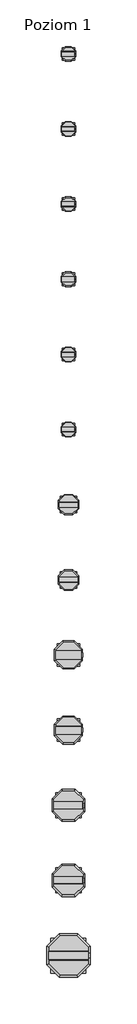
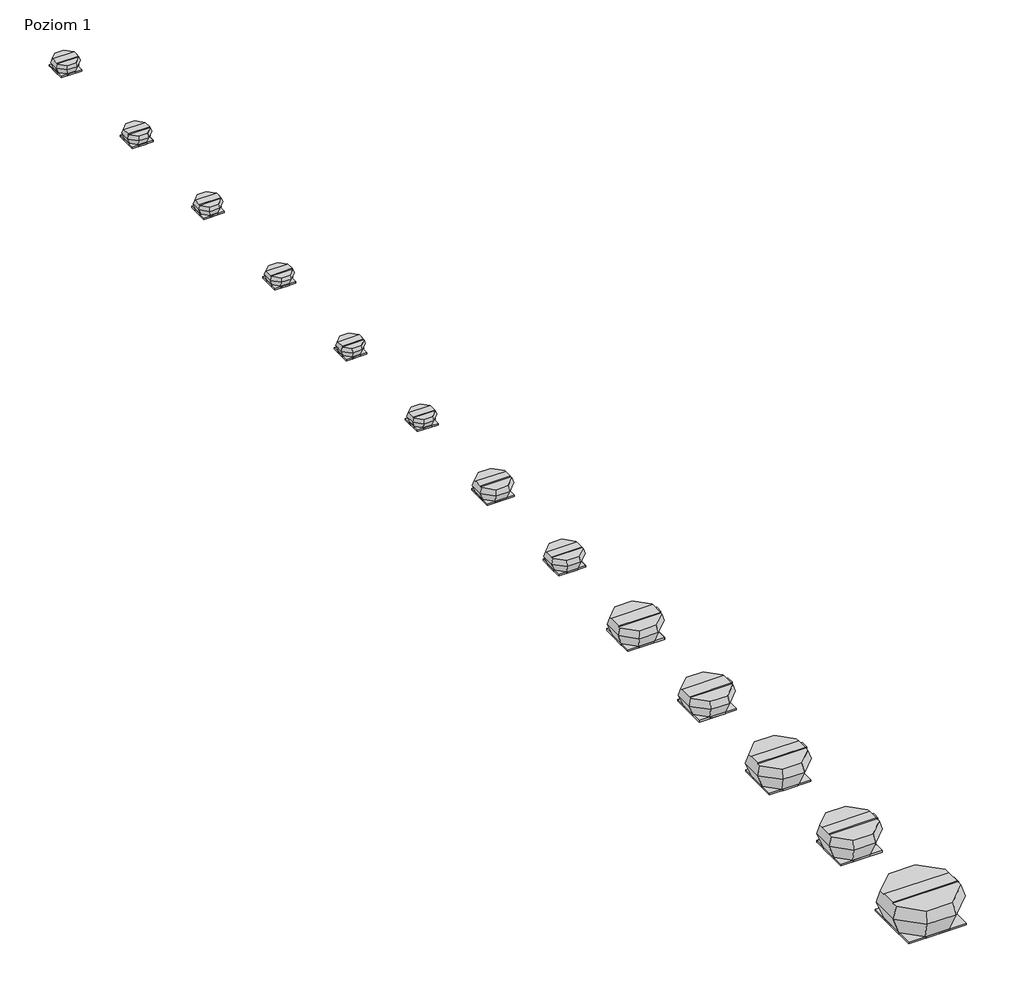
# One storey: 13 duct fittings, 13 unitary equipment elements.
"""IFC4 building model written with IfcOpenShell, lengths in millimetres."""

from ifc_helpers import new_model, si_unit, origin, place, context, project, spatial, transform, mapped, element, save
from components import duct_fitting_180_5dd8c60e, duct_fitting_250_9d40ecca, duct_fitting_400_42e1e227, duct_fitting_560_c8fad201, unitary_equipment_a59a2d30, unitary_equipment_fd4ee621, unitary_equipment_81159ae2, unitary_equipment_c2e2b98b, unitary_equipment_f8658a9e, unitary_equipment_a3701f98, unitary_equipment_b495a2a0, unitary_equipment_f77e3ca6, unitary_equipment_25c7162d, unitary_equipment_8482c4d3, unitary_equipment_7d859a49, unitary_equipment_75d93c66, unitary_equipment_7c28f33a

model = new_model("IFC4")

# Units and contexts
model_context = context("Model", 3, world=origin())
ifc_project = project(units=[si_unit("LENGTHUNIT", "METRE", prefix="MILLI")], contexts=[model_context])

# Site, building, storey
site = spatial("IfcSite", under=ifc_project)
building = spatial("IfcBuilding", under=site)
storey = spatial("IfcBuildingStorey", under=building, Name="Poziom 1", Elevation=0.0)

# Duct fittings
placement = place(None, origin())
duct_fitting_180_shape = duct_fitting_180_5dd8c60e(model_context)
element("IfcDuctFitting", 1, ObjectType="VE-Zagnieżdżone-Akcesorium-ParaForma-Harmann-DAF-Króciec_Przyłączeniowy : 180", at=placement, inside=storey, context=model_context, shape_type="MappedRepresentation", body=[
    mapped(duct_fitting_180_shape, transform((4582.5, 5000.0, 0.0), x_axis=(1.0, 0.0, 0.0), y_axis=(0.0, 1.0, 0.0), z_axis=(0.0, 0.0, 1.0))),
])
element("IfcDuctFitting", 2, ObjectType="VE-Zagnieżdżone-Akcesorium-ParaForma-Harmann-DAF-Króciec_Przyłączeniowy : 180", at=placement, inside=storey, context=model_context, shape_type="MappedRepresentation", body=[
    mapped(duct_fitting_180_shape, transform((4582.5, 7000.0, 0.0), x_axis=(1.0, 0.0, 0.0), y_axis=(0.0, 1.0, 0.0), z_axis=(0.0, 0.0, 1.0))),
])
element("IfcDuctFitting", 3, ObjectType="VE-Zagnieżdżone-Akcesorium-ParaForma-Harmann-DAF-Króciec_Przyłączeniowy : 180", at=placement, inside=storey, context=model_context, shape_type="MappedRepresentation", body=[
    mapped(duct_fitting_180_shape, transform((4582.5, 1000.0, 0.0), x_axis=(1.0, 0.0, 0.0), y_axis=(0.0, 1.0, 0.0), z_axis=(0.0, 0.0, 1.0))),
])
element("IfcDuctFitting", 4, ObjectType="VE-Zagnieżdżone-Akcesorium-ParaForma-Harmann-DAF-Króciec_Przyłączeniowy : 180", at=placement, inside=storey, context=model_context, shape_type="MappedRepresentation", body=[
    mapped(duct_fitting_180_shape, transform((4582.5, 3000.0, 0.0), x_axis=(1.0, 0.0, 0.0), y_axis=(0.0, 1.0, 0.0), z_axis=(0.0, 0.0, 1.0))),
])
element("IfcDuctFitting", 5, ObjectType="VE-Zagnieżdżone-Akcesorium-ParaForma-Harmann-DAF-Króciec_Przyłączeniowy : 180", at=placement, inside=storey, context=model_context, shape_type="MappedRepresentation", body=[
    mapped(duct_fitting_180_shape, transform((4582.5, 9000.0, 0.0), x_axis=(1.0, 0.0, 0.0), y_axis=(0.0, 1.0, 0.0), z_axis=(0.0, 0.0, 1.0))),
])
element("IfcDuctFitting", 6, ObjectType="VE-Zagnieżdżone-Akcesorium-ParaForma-Harmann-DAF-Króciec_Przyłączeniowy : 180", at=placement, inside=storey, context=model_context, shape_type="MappedRepresentation", body=[
    mapped(duct_fitting_180_shape, transform((4582.5, 11000.0, 0.0), x_axis=(1.0, 0.0, 0.0), y_axis=(0.0, 1.0, 0.0), z_axis=(0.0, 0.0, 1.0))),
])
duct_fitting_250_shape = duct_fitting_250_9d40ecca(model_context)
element("IfcDuctFitting", 7, ObjectType="VE-Zagnieżdżone-Akcesorium-ParaForma-Harmann-DAF-Króciec_Przyłączeniowy : 250", at=placement, inside=storey, context=model_context, shape_type="MappedRepresentation", body=[
    mapped(duct_fitting_250_shape, transform((4582.5, -3000.0, 0.0), x_axis=(1.0, 0.0, 0.0), y_axis=(0.0, 1.0, 0.0), z_axis=(0.0, 0.0, 1.0))),
])
element("IfcDuctFitting", 8, ObjectType="VE-Zagnieżdżone-Akcesorium-ParaForma-Harmann-DAF-Króciec_Przyłączeniowy : 250", at=placement, inside=storey, context=model_context, shape_type="MappedRepresentation", body=[
    mapped(duct_fitting_250_shape, transform((4582.5, -1000.0, 0.0), x_axis=(1.0, 0.0, 0.0), y_axis=(0.0, 1.0, 0.0), z_axis=(0.0, 0.0, 1.0))),
])
duct_fitting_400_shape = duct_fitting_400_42e1e227(model_context)
element("IfcDuctFitting", 9, ObjectType="VE-Zagnieżdżone-Akcesorium-ParaForma-Harmann-DAF-Króciec_Przyłączeniowy : 400", at=placement, inside=storey, context=model_context, shape_type="MappedRepresentation", body=[
    mapped(duct_fitting_400_shape, transform((4582.5, -7000.0, 0.0), x_axis=(1.0, 0.0, 0.0), y_axis=(0.0, 1.0, 0.0), z_axis=(0.0, 0.0, 1.0))),
])
element("IfcDuctFitting", 10, ObjectType="VE-Zagnieżdżone-Akcesorium-ParaForma-Harmann-DAF-Króciec_Przyłączeniowy : 400", at=placement, inside=storey, context=model_context, shape_type="MappedRepresentation", body=[
    mapped(duct_fitting_400_shape, transform((4582.5, -5000.0, 0.0), x_axis=(1.0, 0.0, 0.0), y_axis=(0.0, 1.0, 0.0), z_axis=(0.0, 0.0, 1.0))),
])
element("IfcDuctFitting", 11, ObjectType="VE-Zagnieżdżone-Akcesorium-ParaForma-Harmann-DAF-Króciec_Przyłączeniowy : 400", at=placement, inside=storey, context=model_context, shape_type="MappedRepresentation", body=[
    mapped(duct_fitting_400_shape, transform((4582.5, -9000.0, 0.0), x_axis=(1.0, 0.0, 0.0), y_axis=(0.0, 1.0, 0.0), z_axis=(0.0, 0.0, 1.0))),
])
element("IfcDuctFitting", 12, ObjectType="VE-Zagnieżdżone-Akcesorium-ParaForma-Harmann-DAF-Króciec_Przyłączeniowy : 400", at=placement, inside=storey, context=model_context, shape_type="MappedRepresentation", body=[
    mapped(duct_fitting_400_shape, transform((4582.5, -11000.0, 0.0), x_axis=(1.0, 0.0, 0.0), y_axis=(0.0, 1.0, 0.0), z_axis=(0.0, 0.0, 1.0))),
])
duct_fitting_560_shape = duct_fitting_560_c8fad201(model_context)
element("IfcDuctFitting", 13, ObjectType="VE-Zagnieżdżone-Akcesorium-ParaForma-Harmann-DAF-Króciec_Przyłączeniowy : 560", at=placement, inside=storey, context=model_context, shape_type="MappedRepresentation", body=[
    mapped(duct_fitting_560_shape, transform((4582.5, -13000.0, 0.0), x_axis=(1.0, 0.0, 0.0), y_axis=(0.0, 1.0, 0.0), z_axis=(0.0, 0.0, 1.0))),
])

# Unitary equipment
unitary_equipment_shape = unitary_equipment_a59a2d30(model_context)
element("IfcUnitaryEquipment", 14, ObjectType="VE-Wentylator-ParaForma-Harmann-VIVER_PS-Wywiewny : 2-190/450S", at=placement, inside=storey, context=model_context, shape_type="MappedRepresentation", body=[
    mapped(unitary_equipment_shape, transform((4582.5, 11000.0, 0.0), x_axis=(1.0, 0.0, 0.0), y_axis=(0.0, 1.0, 0.0), z_axis=(0.0, 0.0, 1.0))),
])
unitary_equipment_2_shape = unitary_equipment_fd4ee621(model_context)
element("IfcUnitaryEquipment", 15, ObjectType="VE-Wentylator-ParaForma-Harmann-VIVER_PS-Wywiewny : 4-190/250S", at=placement, inside=storey, context=model_context, shape_type="MappedRepresentation", body=[
    mapped(unitary_equipment_2_shape, transform((4582.5, 5000.0, 0.0), x_axis=(1.0, 0.0, 0.0), y_axis=(0.0, 1.0, 0.0), z_axis=(0.0, 0.0, 1.0))),
])
unitary_equipment_3_shape = unitary_equipment_81159ae2(model_context)
element("IfcUnitaryEquipment", 16, ObjectType="VE-Wentylator-ParaForma-Harmann-VIVER_PS-Wywiewny : 2-220/800S", at=placement, inside=storey, context=model_context, shape_type="MappedRepresentation", body=[
    mapped(unitary_equipment_3_shape, transform((4582.5, 9000.0, 0.0), x_axis=(1.0, 0.0, 0.0), y_axis=(0.0, 1.0, 0.0), z_axis=(0.0, 0.0, 1.0))),
])
unitary_equipment_4_shape = unitary_equipment_c2e2b98b(model_context)
element("IfcUnitaryEquipment", 17, ObjectType="VE-Wentylator-ParaForma-Harmann-VIVER_PS-Wywiewny : 4-220/400S", at=placement, inside=storey, context=model_context, shape_type="MappedRepresentation", body=[
    mapped(unitary_equipment_4_shape, transform((4582.5, 3000.0, 0.0), x_axis=(1.0, 0.0, 0.0), y_axis=(0.0, 1.0, 0.0), z_axis=(0.0, 0.0, 1.0))),
])
unitary_equipment_5_shape = unitary_equipment_f8658a9e(model_context)
element("IfcUnitaryEquipment", 18, ObjectType="VE-Wentylator-ParaForma-Harmann-VIVER_PS-Wywiewny : 2-225/900S", at=placement, inside=storey, context=model_context, shape_type="MappedRepresentation", body=[
    mapped(unitary_equipment_5_shape, transform((4582.5, 7000.0, 0.0), x_axis=(1.0, 0.0, 0.0), y_axis=(0.0, 1.0, 0.0), z_axis=(0.0, 0.0, 1.0))),
])
unitary_equipment_6_shape = unitary_equipment_a3701f98(model_context)
element("IfcUnitaryEquipment", 19, ObjectType="VE-Wentylator-ParaForma-Harmann-VIVER_PS-Wywiewny : 4-250/600S", at=placement, inside=storey, context=model_context, shape_type="MappedRepresentation", body=[
    mapped(unitary_equipment_6_shape, transform((4582.5, 1000.0, 0.0), x_axis=(1.0, 0.0, 0.0), y_axis=(0.0, 1.0, 0.0), z_axis=(0.0, 0.0, 1.0))),
])
unitary_equipment_7_shape = unitary_equipment_b495a2a0(model_context)
element("IfcUnitaryEquipment", 20, ObjectType="VE-Wentylator-ParaForma-Harmann-VIVER_PS-Wywiewny : 4-280/1100S", at=placement, inside=storey, context=model_context, shape_type="MappedRepresentation", body=[
    mapped(unitary_equipment_7_shape, transform((4582.5, -1000.0, 0.0), x_axis=(1.0, 0.0, 0.0), y_axis=(0.0, 1.0, 0.0), z_axis=(0.0, 0.0, 1.0))),
])
unitary_equipment_8_shape = unitary_equipment_f77e3ca6(model_context)
element("IfcUnitaryEquipment", 21, ObjectType="VE-Wentylator-ParaForma-Harmann-VIVER_PS-Wywiewny : 4-315/1600S", at=placement, inside=storey, context=model_context, shape_type="MappedRepresentation", body=[
    mapped(unitary_equipment_8_shape, transform((4582.5, -3000.0, 0.0), x_axis=(1.0, 0.0, 0.0), y_axis=(0.0, 1.0, 0.0), z_axis=(0.0, 0.0, 1.0))),
])
unitary_equipment_9_shape = unitary_equipment_25c7162d(model_context)
element("IfcUnitaryEquipment", 22, ObjectType="VE-Wentylator-ParaForma-Harmann-VIVER_PS-Wywiewny : 4-355/2700S", at=placement, inside=storey, context=model_context, shape_type="MappedRepresentation", body=[
    mapped(unitary_equipment_9_shape, transform((4582.5, -5000.0, 0.0), x_axis=(1.0, 0.0, 0.0), y_axis=(0.0, 1.0, 0.0), z_axis=(0.0, 0.0, 1.0))),
])
unitary_equipment_10_shape = unitary_equipment_8482c4d3(model_context)
element("IfcUnitaryEquipment", 23, ObjectType="VE-Wentylator-ParaForma-Harmann-VIVER_PS-Wywiewny : 4-400/3700S", at=placement, inside=storey, context=model_context, shape_type="MappedRepresentation", body=[
    mapped(unitary_equipment_10_shape, transform((4582.5, -7000.0, 0.0), x_axis=(1.0, 0.0, 0.0), y_axis=(0.0, 1.0, 0.0), z_axis=(0.0, 0.0, 1.0))),
])
unitary_equipment_11_shape = unitary_equipment_7d859a49(model_context)
element("IfcUnitaryEquipment", 24, ObjectType="VE-Wentylator-ParaForma-Harmann-VIVER_PS-Wywiewny : 4-450/5000T", at=placement, inside=storey, context=model_context, shape_type="MappedRepresentation", body=[
    mapped(unitary_equipment_11_shape, transform((4582.5, -9000.0, 0.0), x_axis=(1.0, 0.0, 0.0), y_axis=(0.0, 1.0, 0.0), z_axis=(0.0, 0.0, 1.0))),
])
unitary_equipment_12_shape = unitary_equipment_75d93c66(model_context)
element("IfcUnitaryEquipment", 25, ObjectType="VE-Wentylator-ParaForma-Harmann-VIVER_PS-Wywiewny : 4-500/7600T", at=placement, inside=storey, context=model_context, shape_type="MappedRepresentation", body=[
    mapped(unitary_equipment_12_shape, transform((4582.5, -11000.0, 0.0), x_axis=(1.0, 0.0, 0.0), y_axis=(0.0, 1.0, 0.0), z_axis=(0.0, 0.0, 1.0))),
])
unitary_equipment_13_shape = unitary_equipment_7c28f33a(model_context)
element("IfcUnitaryEquipment", 26, ObjectType="VE-Wentylator-ParaForma-Harmann-VIVER_PS-Wywiewny : 4-560/10900T", at=placement, inside=storey, context=model_context, shape_type="MappedRepresentation", body=[
    mapped(unitary_equipment_13_shape, transform((4582.5, -13000.0, 0.0), x_axis=(1.0, 0.0, 0.0), y_axis=(0.0, 1.0, 0.0), z_axis=(0.0, 0.0, 1.0))),
])

save(model, "model.ifc")
